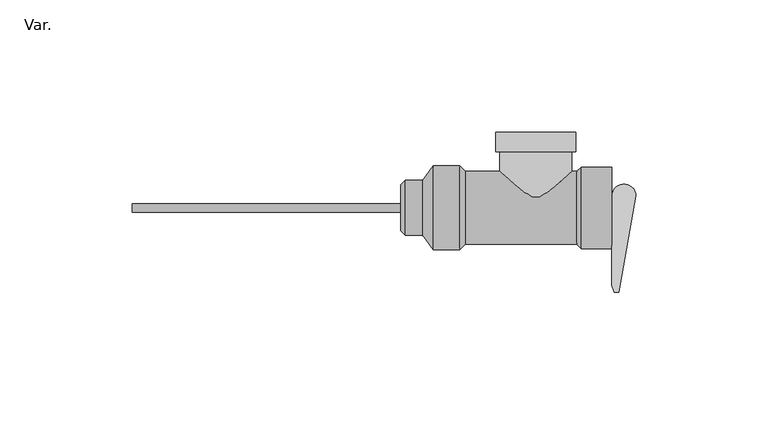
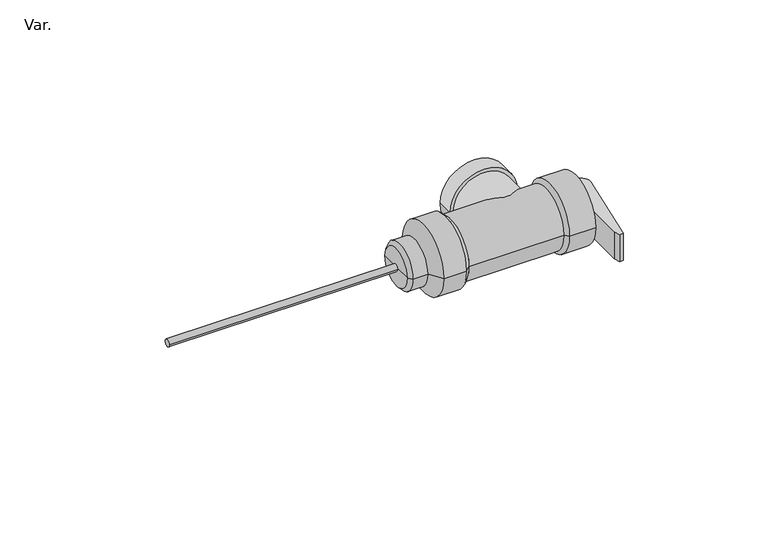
"""IFC4 building model written with IfcOpenShell, lengths in millimetres: pipe fitting geometry."""

from ifc_helpers import new_model, si_unit, point, frame, frame_2d, origin, origin_2d, place, context, project, spatial, polyline, circle_curve, trimmed, segment, composite_curve, outline, extrude, source, transform, mapped, element, save
from ifc_brep_helpers import plane_surface, cylinder_surface, revolved_surface, advanced_brep


def var_9f159643(model_context):
    return source(origin(), model_context, "Body", "SolidModel", [
        advanced_brep(
        [(-26.7344063, -13.74, 0.0), (-26.7344063, 13.74, 0.0), (-26.7344063, 0.0, 0.0), (-28.8544063, -15.86, 0.0), (-28.8544063, 15.86, 0.0), (-38.8714116, -15.86, 0.0), (-38.8714116, 15.86, 0.0), (-42.8714116, -10.38, 0.0), (-42.8714116, 10.38, 0.0), (-49.3914116, -10.38, 0.0), (-49.3914116, 10.38, 0.0), (-51.06, -8.7114116, 0.0), (-51.06, 8.7114116, 0.0), (-51.06, 0.0, 0.0)],
        [
            (0, 1, circle_curve(frame((-26.7344063, 0.0, 0.0), z_axis=(1.0, 0.0, 0.0), x_axis=(0.0, 1.0, 0.0)), 13.74)),
            (1, 2),
            (2, 0),
            (1, 0, circle_curve(frame((-26.7344063, 0.0, 0.0), z_axis=(1.0, 0.0, 0.0), x_axis=(0.0, 1.0, 0.0)), 13.74)),
            (3, 4, circle_curve(frame((-28.8544063, 0.0, 0.0), z_axis=(1.0, 0.0, 0.0), x_axis=(0.0, 1.0, 0.0)), 15.86)),
            (4, 1),
            (0, 3),
            (4, 3, circle_curve(frame((-28.8544063, 0.0, 0.0), z_axis=(1.0, 0.0, 0.0), x_axis=(0.0, 1.0, 0.0)), 15.86)),
            (5, 6, circle_curve(frame((-38.8714116, 0.0, 0.0), z_axis=(1.0, 0.0, 0.0), x_axis=(0.0, 1.0, 0.0)), 15.86)),
            (6, 4),
            (3, 5),
            (6, 5, circle_curve(frame((-38.8714116, 0.0, 0.0), z_axis=(1.0, 0.0, 0.0), x_axis=(0.0, 1.0, 0.0)), 15.86)),
            (7, 8, circle_curve(frame((-42.8714116, 0.0, 0.0), z_axis=(1.0, 0.0, 0.0), x_axis=(0.0, 1.0, 0.0)), 10.38)),
            (8, 6),
            (5, 7),
            (8, 7, circle_curve(frame((-42.8714116, 0.0, 0.0), z_axis=(1.0, 0.0, 0.0), x_axis=(0.0, 1.0, 0.0)), 10.38)),
            (9, 10, circle_curve(frame((-49.3914116, 0.0, 0.0), z_axis=(1.0, 0.0, 0.0), x_axis=(0.0, 1.0, 0.0)), 10.38)),
            (10, 8),
            (7, 9),
            (10, 9, circle_curve(frame((-49.3914116, 0.0, 0.0), z_axis=(1.0, 0.0, 0.0), x_axis=(0.0, 1.0, 0.0)), 10.38)),
            (11, 12, circle_curve(frame((-51.06, 0.0, 0.0), z_axis=(1.0, 0.0, 0.0), x_axis=(0.0, 1.0, 0.0)), 8.7114116)),
            (12, 10),
            (9, 11),
            (12, 11, circle_curve(frame((-51.06, 0.0, 0.0), z_axis=(1.0, 0.0, 0.0), x_axis=(0.0, 1.0, 0.0)), 8.7114116)),
            (13, 12),
            (11, 13),
        ],
        [
            plane_surface(frame((-26.7344063, 0.0, 0.0), z_axis=(1.0, 0.0, 0.0), x_axis=(0.0, 1.0, 0.0))),
            revolved_surface(polyline([(-26.7344063, 13.74, 0.0), (-28.8544063, 15.86, 0.0)]), (2000.0, 0.0, 0.0), (-1.0, 0.0, 0.0)),
            cylinder_surface(frame((2000.0, 0.0, 0.0), z_axis=(-1.0, 0.0, 0.0), x_axis=(0.0, 1.0, 0.0)), 15.86),
            revolved_surface(polyline([(-38.8714116, 15.86, 0.0), (-42.8714116, 10.38, 0.0)]), (2000.0, 0.0, 0.0), (-1.0, 0.0, 0.0)),
            cylinder_surface(frame((2000.0, 0.0, 0.0), z_axis=(-1.0, 0.0, 0.0), x_axis=(0.0, 1.0, 0.0)), 10.38),
            revolved_surface(polyline([(-49.3914116, 10.38, 0.0), (-51.06, 8.7114116, 0.0)]), (2000.0, 0.0, 0.0), (-1.0, 0.0, 0.0)),
            plane_surface(frame((-51.06, 0.0, 0.0), z_axis=(-1.0, 0.0, 0.0), x_axis=(0.0, 1.0, 0.0))),
        ],
        [
            (0, [[1, 2, 3]]),
            (0, [[4, -3, -2]]),
            (1, [[5, 6, -1, 7]]),
            (1, [[8, -7, -4, -6]]),
            (2, [[9, 10, -5, 11]]),
            (2, [[12, -11, -8, -10]]),
            (3, [[13, 14, -9, 15]]),
            (3, [[16, -15, -12, -14]]),
            (4, [[17, 18, -13, 19]]),
            (4, [[20, -19, -16, -18]]),
            (5, [[21, 22, -17, 23]]),
            (5, [[24, -23, -20, -22]]),
            (6, [[25, -21, 26]]),
            (6, [[-26, -24, -25]]),
        ],
    ),
        advanced_brep(
        [(28.58, -15.4055339, 0.0), (28.58, 15.4055339, 0.0), (28.58, 0.0, 0.0), (17.1689012, -15.4055339, 0.0), (17.1689012, 15.4055339, 0.0), (15.5033673, -13.74, 0.0), (15.5033673, 13.74, 0.0), (-26.73, -13.74, 0.0), (-26.73, 13.74, 0.0), (-26.73, 0.0, 0.0)],
        [
            (0, 1, circle_curve(frame((28.58, 0.0, 0.0), z_axis=(1.0, 0.0, 0.0), x_axis=(0.0, 1.0, 0.0)), 15.4055339)),
            (1, 2),
            (2, 0),
            (1, 0, circle_curve(frame((28.58, 0.0, 0.0), z_axis=(1.0, 0.0, 0.0), x_axis=(0.0, 1.0, 0.0)), 15.4055339)),
            (3, 4, circle_curve(frame((17.1689012, 0.0, 0.0), z_axis=(1.0, 0.0, 0.0), x_axis=(0.0, 1.0, 0.0)), 15.4055339)),
            (4, 1),
            (0, 3),
            (4, 3, circle_curve(frame((17.1689012, 0.0, 0.0), z_axis=(1.0, 0.0, 0.0), x_axis=(0.0, 1.0, 0.0)), 15.4055339)),
            (5, 6, circle_curve(frame((15.5033673, 0.0, 0.0), z_axis=(1.0, 0.0, 0.0), x_axis=(0.0, 1.0, 0.0)), 13.74)),
            (6, 4),
            (3, 5),
            (6, 5, circle_curve(frame((15.5033673, 0.0, 0.0), z_axis=(1.0, 0.0, 0.0), x_axis=(0.0, 1.0, 0.0)), 13.74)),
            (7, 8, circle_curve(frame((-26.73, 0.0, 0.0), z_axis=(1.0, 0.0, 0.0), x_axis=(0.0, 1.0, 0.0)), 13.74)),
            (8, 6),
            (5, 7),
            (8, 7, circle_curve(frame((-26.73, 0.0, 0.0), z_axis=(1.0, 0.0, 0.0), x_axis=(0.0, 1.0, 0.0)), 13.74)),
            (9, 8),
            (7, 9),
        ],
        [
            plane_surface(frame((28.58, 0.0, 0.0), z_axis=(1.0, 0.0, 0.0), x_axis=(0.0, 1.0, 0.0))),
            cylinder_surface(frame((2000.0, 0.0, 0.0), z_axis=(-1.0, 0.0, 0.0), x_axis=(0.0, 1.0, 0.0)), 15.4055339),
            revolved_surface(polyline([(17.1689012, 15.4055339, 0.0), (15.5033673, 13.74, 0.0)]), (2000.0, 0.0, 0.0), (-1.0, 0.0, 0.0)),
            cylinder_surface(frame((2000.0, 0.0, 0.0), z_axis=(-1.0, 0.0, 0.0), x_axis=(0.0, 1.0, 0.0)), 13.74),
            plane_surface(frame((-26.73, 0.0, 0.0), z_axis=(-1.0, 0.0, 0.0), x_axis=(0.0, 1.0, 0.0))),
        ],
        [
            (0, [[1, 2, 3]]),
            (0, [[4, -3, -2]]),
            (1, [[5, 6, -1, 7]]),
            (1, [[8, -7, -4, -6]]),
            (2, [[9, 10, -5, 11]]),
            (2, [[12, -11, -8, -10]]),
            (3, [[13, 14, -9, 15]]),
            (3, [[16, -15, -12, -14]]),
            (4, [[17, -13, 18]]),
            (4, [[-18, -16, -17]]),
        ],
    ),
        advanced_brep(
        [(0.0, 0.0, 0.0), (-13.62, 0.0, 0.0), (13.62, 0.0, 0.0), (7.94, 13.75, 0.0), (-7.94, 13.75, 0.0), (0.0, 13.75, 0.0), (7.94, 28.58, 0.0), (-7.94, 28.58, 0.0), (15.12, 28.58, 0.0), (-15.12, 28.58, 0.0), (15.12, 21.27, 0.0), (-15.12, 21.27, 0.0), (13.62, 21.27, 0.0), (-13.62, 21.27, 0.0)],
        [
            (0, 1),
            (1, 2, circle_curve(frame((0.0, 0.0, 0.0), z_axis=(0.0, -1.0, 0.0), x_axis=(-1.0, 0.0, 0.0)), 13.62)),
            (2, 0),
            (2, 1, circle_curve(frame((0.0, 0.0, 0.0), z_axis=(0.0, -1.0, 0.0), x_axis=(-1.0, 0.0, 0.0)), 13.62)),
            (3, 4, circle_curve(frame((0.0, 13.75, 0.0), z_axis=(0.0, 1.0, 0.0), x_axis=(-1.0, 0.0, 0.0)), 7.94)),
            (4, 5),
            (5, 3),
            (4, 3, circle_curve(frame((0.0, 13.75, 0.0), z_axis=(0.0, 1.0, 0.0), x_axis=(-1.0, 0.0, 0.0)), 7.94)),
            (6, 7, circle_curve(frame((0.0, 28.58, 0.0), z_axis=(0.0, 1.0, 0.0), x_axis=(-1.0, 0.0, 0.0)), 7.94)),
            (7, 4),
            (3, 6),
            (7, 6, circle_curve(frame((0.0, 28.58, 0.0), z_axis=(0.0, 1.0, 0.0), x_axis=(-1.0, 0.0, 0.0)), 7.94)),
            (8, 9, circle_curve(frame((0.0, 28.58, 0.0), z_axis=(0.0, 1.0, 0.0), x_axis=(-1.0, 0.0, 0.0)), 15.12)),
            (9, 7),
            (6, 8),
            (9, 8, circle_curve(frame((0.0, 28.58, 0.0), z_axis=(0.0, 1.0, 0.0), x_axis=(-1.0, 0.0, 0.0)), 15.12)),
            (10, 11, circle_curve(frame((0.0, 21.27, 0.0), z_axis=(0.0, 1.0, 0.0), x_axis=(-1.0, 0.0, 0.0)), 15.12)),
            (11, 9),
            (8, 10),
            (11, 10, circle_curve(frame((0.0, 21.27, 0.0), z_axis=(0.0, 1.0, 0.0), x_axis=(-1.0, 0.0, 0.0)), 15.12)),
            (12, 13, circle_curve(frame((0.0, 21.27, 0.0), z_axis=(0.0, 1.0, 0.0), x_axis=(-1.0, 0.0, 0.0)), 13.62)),
            (13, 11),
            (10, 12),
            (13, 12, circle_curve(frame((0.0, 21.27, 0.0), z_axis=(0.0, 1.0, 0.0), x_axis=(-1.0, 0.0, 0.0)), 13.62)),
            (1, 13),
            (12, 2),
        ],
        [
            plane_surface(frame((0.0, 0.0, 0.0), z_axis=(0.0, -1.0, 0.0), x_axis=(-1.0, 0.0, 0.0))),
            plane_surface(frame((0.0, 13.75, 0.0), z_axis=(0.0, 1.0, 0.0), x_axis=(-1.0, 0.0, 0.0))),
            revolved_surface(polyline([(-7.94, 13.75, 0.0), (-7.94, 28.579999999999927, 0.0)]), (0.0, 2000.0, 0.0), (0.0, -1.0, 0.0)),
            plane_surface(frame((0.0, 28.58, 0.0), z_axis=(0.0, 1.0, 0.0), x_axis=(-1.0, 0.0, 0.0))),
            cylinder_surface(frame((0.0, 2000.0, 0.0), z_axis=(0.0, -1.0, 0.0), x_axis=(-1.0, 0.0, 0.0)), 15.12),
            plane_surface(frame((0.0, 21.27, 0.0), z_axis=(0.0, -1.0, 0.0), x_axis=(-1.0, 0.0, 0.0))),
            cylinder_surface(frame((0.0, 2000.0, 0.0), z_axis=(0.0, -1.0, 0.0), x_axis=(-1.0, 0.0, 0.0)), 13.62),
        ],
        [
            (0, [[1, 2, 3]]),
            (0, [[-3, 4, -1]]),
            (1, [[5, 6, 7]]),
            (1, [[8, -7, -6]]),
            (2, [[9, 10, -5, 11]]),
            (2, [[12, -11, -8, -10]]),
            (3, [[13, 14, -9, 15]]),
            (3, [[16, -15, -12, -14]]),
            (4, [[17, 18, -13, 19]]),
            (4, [[20, -19, -16, -18]]),
            (5, [[21, 22, -17, 23]]),
            (5, [[24, -23, -20, -22]]),
            (6, [[-2, 25, -21, 26]]),
            (6, [[-4, -26, -24, -25]]),
        ],
    ),
        extrude(outline(composite_curve([segment(trimmed(circle_curve(frame_2d((33.2582755, 4.4871364)), 4.5), [point((28.7582755, 4.4871364))], [point((37.7582755, 4.4871364))], False, "CARTESIAN"), True, "CONTINUOUS"), segment(polyline([(37.7582755, 4.4871364), (31.3332929, -31.9507504), (29.6619278, -31.9507504), (28.7582755, -29.2128636), (28.7582755, 4.4871364)]), True, "CONTINUOUS")], self_intersect=False)), frame((0.0, 0.0, -6.3548288), z_axis=(0.0, 0.0, 1.0), x_axis=(1.0, 0.0, 0.0)), (0.0, 0.0, 1.0), 12.7048288),
        extrude(outline(composite_curve([segment(trimmed(circle_curve(origin_2d(), 1.59), [point((-1.59, 0.0))], [point((1.59, 0.0))], False, "CARTESIAN"), True, "CONTINUOUS"), segment(trimmed(circle_curve(origin_2d(), 1.59), [point((1.59, 0.0))], [point((-1.59, 0.0))], False, "CARTESIAN"), True, "CONTINUOUS")], self_intersect=False)), frame((-152.66, 0.0, 0.0), z_axis=(1.0, 0.0, 0.0), x_axis=(0.0, 1.0, 0.0)), (0.0, 0.0, 1.0), 101.6),
    ])


if __name__ == "__main__":
    model = new_model("IFC4")
    model_context = context("Model", 3, world=origin())
    ifc_project = project(units=[si_unit("LENGTHUNIT", "METRE", prefix="MILLI")], contexts=[model_context])
    site = spatial("IfcSite", under=ifc_project)
    building = spatial("IfcBuilding", under=site)
    placement = place(None, origin())
    var_shape = var_9f159643(model_context)
    element("IfcPipeFitting", 1, ObjectType="PavcoWavin_UnionesDeTuberia_CpvcValvulaDeAlivio_de1/2\" : Var.", at=placement, inside=building, context=model_context, shape_type="MappedRepresentation", body=[
        mapped(var_shape, transform((0.0, 0.0, 0.0), x_axis=(1.0, 0.0, 0.0), y_axis=(0.0, 1.0, 0.0), z_axis=(0.0, 0.0, 1.0))),
    ])
    save(model, "model.ifc")
